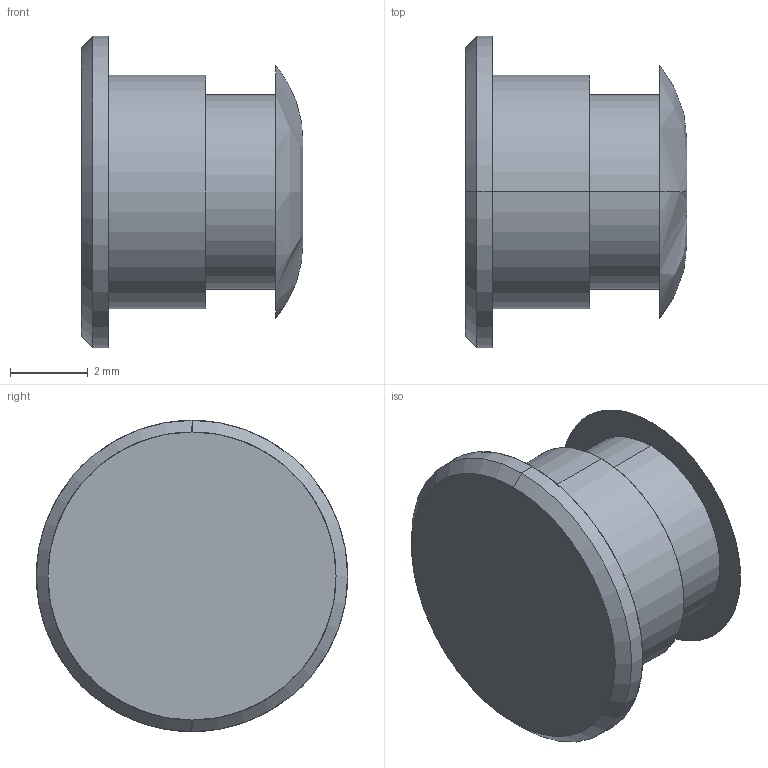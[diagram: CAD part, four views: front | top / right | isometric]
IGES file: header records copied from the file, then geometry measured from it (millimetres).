
Start section: SolidWorks IGES FILE using analytic representation for surfaces
Global section: file name: C:\Documents and Settings\brechard\Bureau\GE 84\84.100.00.IGS; native system: SolidWorks 2001Plus by SolidWorks Corporation; preprocessor: Version 5.3; author: brechard; date: 050126.111420; units: millimetre
Bounding box: 5.7 x 8 x 8 mm (x, y, z)
Surface area: 219 mm2 (no closed solid volume)
Topology: 0 solids, 0 shells, 15 faces, 296 edges, 296 vertices
Faces by surface type: revolution 8, bspline 7
